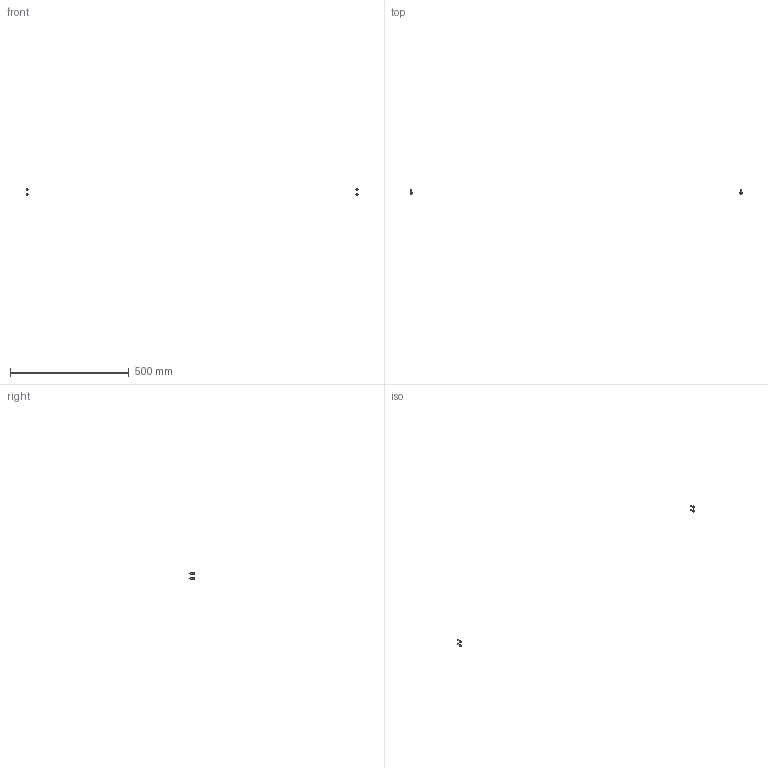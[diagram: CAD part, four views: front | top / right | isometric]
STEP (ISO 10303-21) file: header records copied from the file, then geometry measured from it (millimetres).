
FILE_DESCRIPTION(/* description */ (''),/* implementation_level */ '2;1');
FILE_NAME(/* name */ '8.x-drive#8.9#CB5-12',/* time_stamp */ '2014-12-01T20:18:35+01:00',/* author */ (''),/* organization */ (''),/* preprocessor_version */ 'ST-DEVELOPER v14',/* originating_system */ '',/* authorisation */ '');
FILE_SCHEMA (('AUTOMOTIVE_DESIGN'));
Length unit declared in the file: millimetre
Products named in the file (2): Document; screw DIN912-like, M5x12
Assembly tree (2 placements, depth 2):
  Document
    screw DIN912-like, M5x12  x2
Bounding box: 1398.46 x 17 x 29.5 mm (x, y, z)
Volume: 1914.7 mm3; surface area: 1830.9 mm2
Topology: 4 solids, 4 shells, 100 faces, 224 edges, 132 vertices
Faces by surface type: plane 60, bspline 40
Entity records: 4125 total; most frequent: CARTESIAN_POINT 1889, B_SPLINE_CURVE_WITH_KNOTS 378, ORIENTED_EDGE 324, PCURVE 324, DEFINITIONAL_REPRESENTATION 324, SURFACE_CURVE 162, EDGE_CURVE 162, VERTEX_POINT 99
